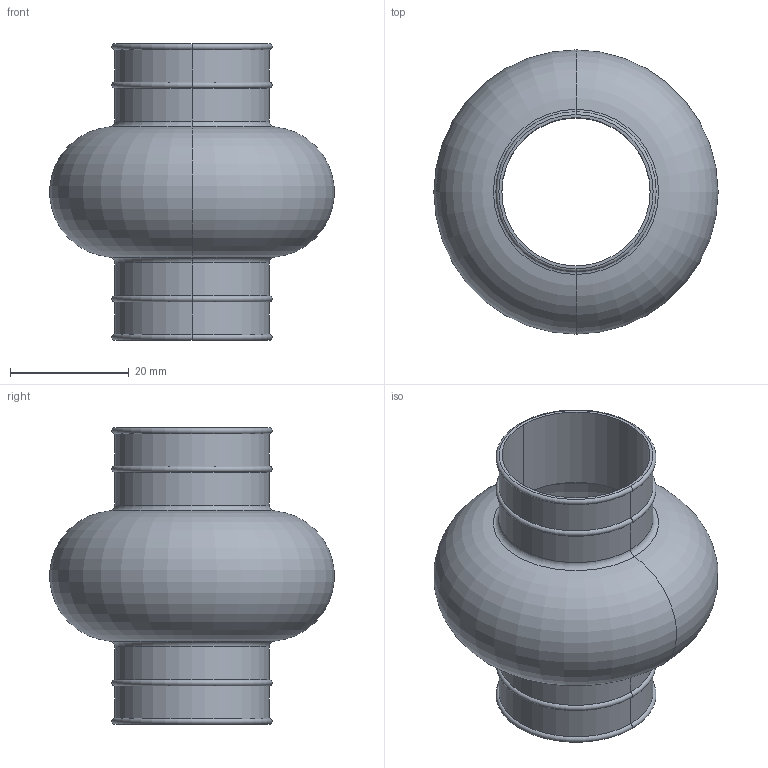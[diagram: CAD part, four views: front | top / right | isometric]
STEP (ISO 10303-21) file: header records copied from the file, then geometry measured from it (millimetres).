
FILE_DESCRIPTION (( 'STEP AP203' ), '1' );
FILE_NAME ('65280.W0025.step', '2018-06-20T18:11:47', ( '' ), ( '' ), 'SwSTEP 2.0', 'SolidWorks 2017', '' );
FILE_SCHEMA (( 'CONFIG_CONTROL_DESIGN' ));
Length unit declared in the file: millimetre
Products named in the file (1): 65280.W0025
Bounding box: 47.92 x 47.92 x 50 mm (x, y, z)
Volume: 3429 mm3; surface area: 13286.4 mm2
Topology: 1 solids, 1 shells, 30 faces, 60 edges, 32 vertices
Faces by surface type: torus 16, cylinder 12, plane 2
Entity records: 861 total; most frequent: DIRECTION 170, CARTESIAN_POINT 123, ORIENTED_EDGE 120, AXIS2_PLACEMENT_3D 79, EDGE_CURVE 60, CIRCLE 48, VERTEX_POINT 32, EDGE_LOOP 32
